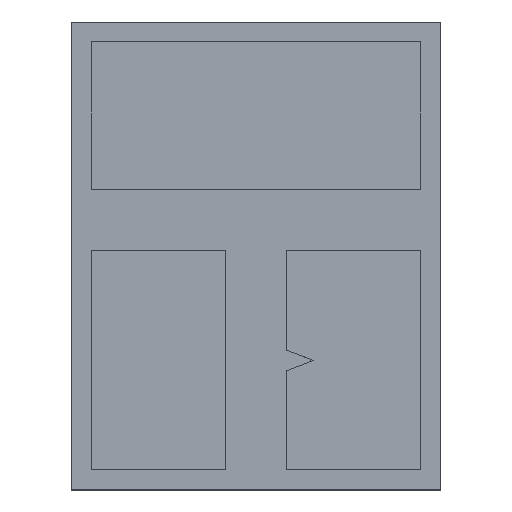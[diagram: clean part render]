
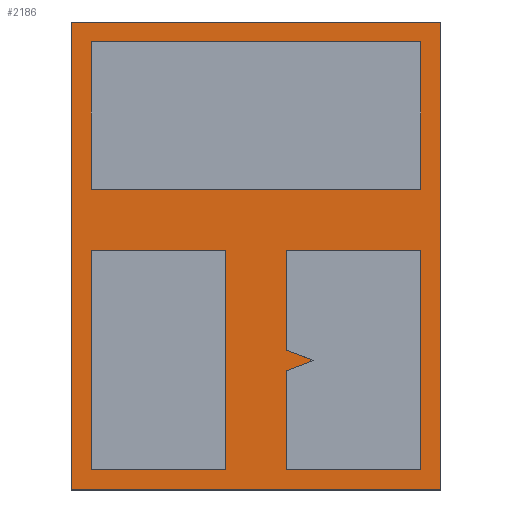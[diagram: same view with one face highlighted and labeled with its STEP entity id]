
A CAD part, top view. The second image highlights one B-rep face of the part: STEP entity #2186.
In plain terms, the highlighted planar face has unit normal (0, 0, 1).
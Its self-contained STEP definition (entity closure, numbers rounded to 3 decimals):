
#1 = ORIENTED_EDGE ( 'NONE', *, *, #3106, .T. ) ;
#60 = DIRECTION ( 'NONE',  ( 1., 0., 0. ) ) ;
#94 = ORIENTED_EDGE ( 'NONE', *, *, #2950, .T. ) ;
#162 = CARTESIAN_POINT ( 'NONE',  ( -0.533, -0.86, 2.13 ) ) ;
#240 = VERTEX_POINT ( 'NONE', #1651 ) ;
#258 = VERTEX_POINT ( 'NONE', #1061 ) ;
#272 = VERTEX_POINT ( 'NONE', #2207 ) ;
#304 = EDGE_LOOP ( 'NONE', ( #581, #1695 ) ) ;
#345 = EDGE_CURVE ( 'NONE', #240, #972, #3400, .T. ) ;
#362 = AXIS2_PLACEMENT_3D ( 'NONE', #3601, #784, #1924 ) ;
#386 = DIRECTION ( 'NONE',  ( 1., 0., 0. ) ) ;
#500 = DIRECTION ( 'NONE',  ( 0., -1., 0. ) ) ;
#508 = CARTESIAN_POINT ( 'NONE',  ( -0.033, -0.355, 2.13 ) ) ;
#529 = EDGE_CURVE ( 'NONE', #972, #240, #1098, .T. ) ;
#536 = DIRECTION ( 'NONE',  ( 0., 1., 0. ) ) ;
#581 = ORIENTED_EDGE ( 'NONE', *, *, #529, .T. ) ;
#661 = VERTEX_POINT ( 'NONE', #2418 ) ;
#685 = DIRECTION ( 'NONE',  ( 0., 0., -1. ) ) ;
#782 = EDGE_CURVE ( 'NONE', #661, #1240, #1650, .T. ) ;
#784 = DIRECTION ( 'NONE',  ( 0., 0., -1. ) ) ;
#790 = EDGE_CURVE ( 'NONE', #1240, #661, #1286, .T. ) ;
#846 = EDGE_CURVE ( 'NONE', #2001, #272, #851, .T. ) ;
#851 = LINE ( 'NONE', #2839, #1045 ) ;
#861 = EDGE_LOOP ( 'NONE', ( #94, #3349, #2538, #1 ) ) ;
#897 = AXIS2_PLACEMENT_3D ( 'NONE', #2599, #2260, #60 ) ;
#967 = AXIS2_PLACEMENT_3D ( 'NONE', #2350, #2299, #1806 ) ;
#972 = VERTEX_POINT ( 'NONE', #1563 ) ;
#1009 = PLANE ( 'NONE',  #2565 ) ;
#1045 = VECTOR ( 'NONE', #2823, 1000. ) ;
#1055 = FACE_OUTER_BOUND ( 'NONE', #861, .T. ) ;
#1056 = EDGE_CURVE ( 'NONE', #2335, #258, #2792, .T. ) ;
#1061 = CARTESIAN_POINT ( 'NONE',  ( 0.432, -0.567, 2.13 ) ) ;
#1067 = CARTESIAN_POINT ( 'NONE',  ( -0.033, -0.567, 2.13 ) ) ;
#1091 = EDGE_LOOP ( 'NONE', ( #3602, #3362 ) ) ;
#1098 = CIRCLE ( 'NONE', #3499, 0.035 ) ;
#1100 = CARTESIAN_POINT ( 'NONE',  ( 0.967, 1.04, 2.13 ) ) ;
#1131 = CIRCLE ( 'NONE', #897, 0.035 ) ;
#1135 = AXIS2_PLACEMENT_3D ( 'NONE', #1813, #1749, #1235 ) ;
#1156 = CARTESIAN_POINT ( 'NONE',  ( -0.533, -0.86, 2.13 ) ) ;
#1169 = CARTESIAN_POINT ( 'NONE',  ( 0.967, 1.04, 2.13 ) ) ;
#1200 = DIRECTION ( 'NONE',  ( 1., 0., 0. ) ) ;
#1224 = AXIS2_PLACEMENT_3D ( 'NONE', #1783, #2929, #386 ) ;
#1235 = DIRECTION ( 'NONE',  ( 1., 0., 0. ) ) ;
#1240 = VERTEX_POINT ( 'NONE', #2600 ) ;
#1286 = CIRCLE ( 'NONE', #362, 0.035 ) ;
#1322 = CARTESIAN_POINT ( 'NONE',  ( -0.533, 1.04, 2.13 ) ) ;
#1381 = LINE ( 'NONE', #1322, #1482 ) ;
#1457 = LINE ( 'NONE', #1156, #2828 ) ;
#1461 = VERTEX_POINT ( 'NONE', #1778 ) ;
#1482 = VECTOR ( 'NONE', #500, 1000. ) ;
#1512 = CARTESIAN_POINT ( 'NONE',  ( 0.502, -0.355, 2.13 ) ) ;
#1527 = EDGE_LOOP ( 'NONE', ( #2365, #2326 ) ) ;
#1563 = CARTESIAN_POINT ( 'NONE',  ( 0.002, -0.355, 2.13 ) ) ;
#1574 = ORIENTED_EDGE ( 'NONE', *, *, #2744, .T. ) ;
#1632 = CARTESIAN_POINT ( 'NONE',  ( -0.033, -0.355, 2.13 ) ) ;
#1650 = CIRCLE ( 'NONE', #2547, 0.035 ) ;
#1651 = CARTESIAN_POINT ( 'NONE',  ( -0.068, -0.355, 2.13 ) ) ;
#1662 = FACE_BOUND ( 'NONE', #304, .T. ) ;
#1695 = ORIENTED_EDGE ( 'NONE', *, *, #345, .T. ) ;
#1709 = VERTEX_POINT ( 'NONE', #162 ) ;
#1745 = ORIENTED_EDGE ( 'NONE', *, *, #3071, .T. ) ;
#1749 = DIRECTION ( 'NONE',  ( 0., 0., -1. ) ) ;
#1778 = CARTESIAN_POINT ( 'NONE',  ( 0.432, -0.355, 2.13 ) ) ;
#1779 = EDGE_LOOP ( 'NONE', ( #1745, #1574 ) ) ;
#1783 = CARTESIAN_POINT ( 'NONE',  ( 0.467, -0.567, 2.13 ) ) ;
#1805 = VERTEX_POINT ( 'NONE', #2018 ) ;
#1806 = DIRECTION ( 'NONE',  ( 1., 0., 0. ) ) ;
#1807 = VECTOR ( 'NONE', #536, 1000. ) ;
#1813 = CARTESIAN_POINT ( 'NONE',  ( 0.467, -0.355, 2.13 ) ) ;
#1916 = FACE_BOUND ( 'NONE', #1527, .T. ) ;
#1924 = DIRECTION ( 'NONE',  ( 1., 0., 0. ) ) ;
#2001 = VERTEX_POINT ( 'NONE', #1169 ) ;
#2018 = CARTESIAN_POINT ( 'NONE',  ( 0.967, -0.86, 2.13 ) ) ;
#2039 = DIRECTION ( 'NONE',  ( 1., 0., 0. ) ) ;
#2186 = ADVANCED_FACE ( 'NONE', ( #2758, #1916, #3067, #1662, #1055 ), #1009, .T. ) ;
#2207 = CARTESIAN_POINT ( 'NONE',  ( -0.533, 1.04, 2.13 ) ) ;
#2213 = DIRECTION ( 'NONE',  ( 0., 0., -1. ) ) ;
#2215 = EDGE_CURVE ( 'NONE', #272, #1709, #1381, .T. ) ;
#2260 = DIRECTION ( 'NONE',  ( 0., 0., -1. ) ) ;
#2299 = DIRECTION ( 'NONE',  ( 0., 0., -1. ) ) ;
#2326 = ORIENTED_EDGE ( 'NONE', *, *, #3307, .T. ) ;
#2335 = VERTEX_POINT ( 'NONE', #2564 ) ;
#2350 = CARTESIAN_POINT ( 'NONE',  ( 0.467, -0.355, 2.13 ) ) ;
#2365 = ORIENTED_EDGE ( 'NONE', *, *, #1056, .T. ) ;
#2418 = CARTESIAN_POINT ( 'NONE',  ( -0.068, -0.567, 2.13 ) ) ;
#2498 = CARTESIAN_POINT ( 'NONE',  ( 0.217, 0.09, 2.13 ) ) ;
#2509 = LINE ( 'NONE', #1100, #1807 ) ;
#2538 = ORIENTED_EDGE ( 'NONE', *, *, #2215, .T. ) ;
#2547 = AXIS2_PLACEMENT_3D ( 'NONE', #1067, #2213, #3359 ) ;
#2564 = CARTESIAN_POINT ( 'NONE',  ( 0.502, -0.567, 2.13 ) ) ;
#2565 = AXIS2_PLACEMENT_3D ( 'NONE', #2498, #3025, #3328 ) ;
#2599 = CARTESIAN_POINT ( 'NONE',  ( 0.467, -0.567, 2.13 ) ) ;
#2600 = CARTESIAN_POINT ( 'NONE',  ( 0.002, -0.567, 2.13 ) ) ;
#2620 = AXIS2_PLACEMENT_3D ( 'NONE', #1632, #685, #1200 ) ;
#2744 = EDGE_CURVE ( 'NONE', #1461, #3397, #2763, .T. ) ;
#2758 = FACE_BOUND ( 'NONE', #1091, .T. ) ;
#2763 = CIRCLE ( 'NONE', #1135, 0.035 ) ;
#2780 = DIRECTION ( 'NONE',  ( 0., 0., -1. ) ) ;
#2792 = CIRCLE ( 'NONE', #1224, 0.035 ) ;
#2823 = DIRECTION ( 'NONE',  ( -1., 0., 0. ) ) ;
#2828 = VECTOR ( 'NONE', #2039, 1000. ) ;
#2839 = CARTESIAN_POINT ( 'NONE',  ( -0.533, 1.04, 2.13 ) ) ;
#2929 = DIRECTION ( 'NONE',  ( 0., 0., -1. ) ) ;
#2950 = EDGE_CURVE ( 'NONE', #1805, #2001, #2509, .T. ) ;
#3025 = DIRECTION ( 'NONE',  ( 0., 0., 1. ) ) ;
#3067 = FACE_BOUND ( 'NONE', #1779, .T. ) ;
#3071 = EDGE_CURVE ( 'NONE', #3397, #1461, #3240, .T. ) ;
#3106 = EDGE_CURVE ( 'NONE', #1709, #1805, #1457, .T. ) ;
#3240 = CIRCLE ( 'NONE', #967, 0.035 ) ;
#3307 = EDGE_CURVE ( 'NONE', #258, #2335, #1131, .T. ) ;
#3328 = DIRECTION ( 'NONE',  ( 1., 0., 0. ) ) ;
#3349 = ORIENTED_EDGE ( 'NONE', *, *, #846, .T. ) ;
#3359 = DIRECTION ( 'NONE',  ( 1., 0., 0. ) ) ;
#3362 = ORIENTED_EDGE ( 'NONE', *, *, #782, .T. ) ;
#3397 = VERTEX_POINT ( 'NONE', #1512 ) ;
#3400 = CIRCLE ( 'NONE', #2620, 0.035 ) ;
#3499 = AXIS2_PLACEMENT_3D ( 'NONE', #508, #2780, #3546 ) ;
#3546 = DIRECTION ( 'NONE',  ( 1., 0., 0. ) ) ;
#3601 = CARTESIAN_POINT ( 'NONE',  ( -0.033, -0.567, 2.13 ) ) ;
#3602 = ORIENTED_EDGE ( 'NONE', *, *, #790, .T. ) ;
